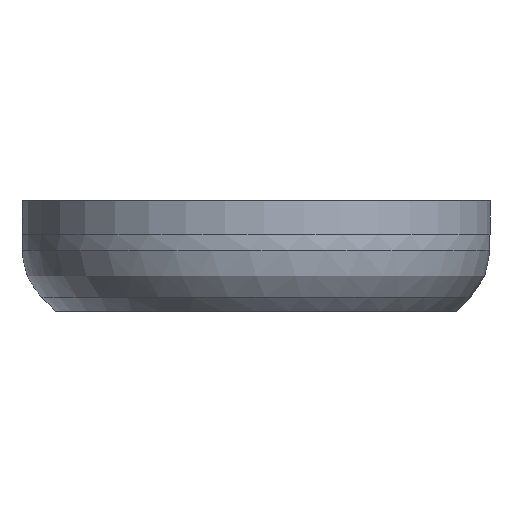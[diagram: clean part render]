
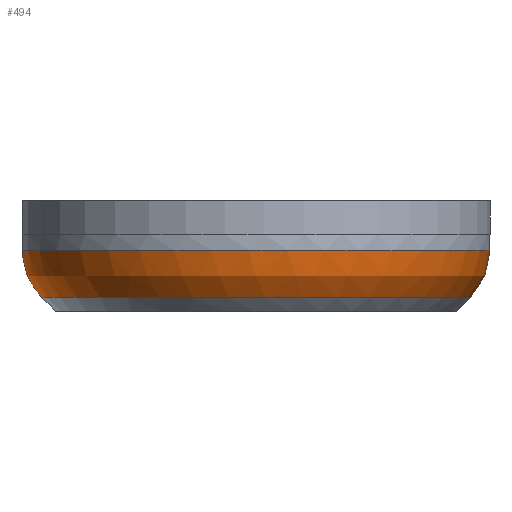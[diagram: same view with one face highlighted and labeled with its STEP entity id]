
A CAD part, front view. The second image highlights one B-rep face of the part: STEP entity #494.
In plain terms, the highlighted free-form (B-spline) face has degree [2, 8] with [3, 9] control points.
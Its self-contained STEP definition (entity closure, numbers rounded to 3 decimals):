
#185 = VERTEX_POINT('',#186);
#186 = CARTESIAN_POINT('',(-6.967,0.677,
    -1.472));
#192 = EDGE_CURVE('',#185,#193,#195,.T.);
#193 = VERTEX_POINT('',#194);
#194 = CARTESIAN_POINT('',(6.967,0.677,-1.472
    ));
#195 = ( BOUNDED_CURVE() B_SPLINE_CURVE(8,(#196,#197,#198,#199,#200,#201
,#202,#203,#204),.UNSPECIFIED.,.F.,.F.) B_SPLINE_CURVE_WITH_KNOTS((9,9),
(59.719,83.066),.PIECEWISE_BEZIER_KNOTS.) CURVE() 
GEOMETRIC_REPRESENTATION_ITEM() RATIONAL_B_SPLINE_CURVE((1.,1.,1.,1.,1.,
1.,1.,1.,1.)) REPRESENTATION_ITEM('') );
#196 = CARTESIAN_POINT('',(-6.967,0.677,
    -1.472));
#197 = CARTESIAN_POINT('',(-7.249,-2.227,
    -1.472));
#198 = CARTESIAN_POINT('',(-6.148,-5.268,
    -1.472));
#199 = CARTESIAN_POINT('',(-3.588,-7.67,
    -1.472));
#200 = CARTESIAN_POINT('',(0.,-8.624,-1.472)
  );
#201 = CARTESIAN_POINT('',(3.588,-7.67,-1.472
    ));
#202 = CARTESIAN_POINT('',(6.148,-5.268,
    -1.472));
#203 = CARTESIAN_POINT('',(7.249,-2.227,
    -1.472));
#204 = CARTESIAN_POINT('',(6.967,0.677,-1.472
    ));
#494 = ADVANCED_FACE('',(#495),#527,.T.);
#495 = FACE_BOUND('',#496,.T.);
#496 = EDGE_LOOP('',(#497,#506,#520,#526));
#497 = ORIENTED_EDGE('',*,*,#498,.T.);
#498 = EDGE_CURVE('',#185,#499,#501,.T.);
#499 = VERTEX_POINT('',#500);
#500 = CARTESIAN_POINT('',(-6.384,0.62,
    -2.886));
#501 = CIRCLE('',#502,2.);
#502 = AXIS2_PLACEMENT_3D('',#503,#504,#505);
#503 = CARTESIAN_POINT('',(-4.977,0.483,
    -1.472));
#504 = DIRECTION('',(-0.097,-0.995,-0.));
#505 = DIRECTION('',(-0.995,0.097,0.));
#506 = ORIENTED_EDGE('',*,*,#507,.T.);
#507 = EDGE_CURVE('',#499,#508,#510,.T.);
#508 = VERTEX_POINT('',#509);
#509 = CARTESIAN_POINT('',(6.384,0.62,-2.886
    ));
#510 = ( BOUNDED_CURVE() B_SPLINE_CURVE(8,(#511,#512,#513,#514,#515,#516
,#517,#518,#519),.UNSPECIFIED.,.F.,.F.) B_SPLINE_CURVE_WITH_KNOTS((9,9),
(59.719,83.066),.PIECEWISE_BEZIER_KNOTS.) CURVE() 
GEOMETRIC_REPRESENTATION_ITEM() RATIONAL_B_SPLINE_CURVE((1.,1.,1.,1.,1.,
1.,1.,1.,1.)) REPRESENTATION_ITEM('') );
#511 = CARTESIAN_POINT('',(-6.384,0.62,
    -2.886));
#512 = CARTESIAN_POINT('',(-6.643,-2.04,
    -2.886));
#513 = CARTESIAN_POINT('',(-5.633,-4.828,
    -2.886));
#514 = CARTESIAN_POINT('',(-3.288,-7.028,
    -2.886));
#515 = CARTESIAN_POINT('',(0.,-7.902,-2.886));
#516 = CARTESIAN_POINT('',(3.288,-7.028,-2.886
    ));
#517 = CARTESIAN_POINT('',(5.633,-4.828,-2.886
    ));
#518 = CARTESIAN_POINT('',(6.643,-2.04,
    -2.886));
#519 = CARTESIAN_POINT('',(6.384,0.62,-2.886
    ));
#520 = ORIENTED_EDGE('',*,*,#521,.F.);
#521 = EDGE_CURVE('',#193,#508,#522,.T.);
#522 = ( BOUNDED_CURVE() B_SPLINE_CURVE(2,(#523,#524,#525),
.UNSPECIFIED.,.F.,.F.) B_SPLINE_CURVE_WITH_KNOTS((3,3),(0.,
23.347),.PIECEWISE_BEZIER_KNOTS.) CURVE() 
GEOMETRIC_REPRESENTATION_ITEM() RATIONAL_B_SPLINE_CURVE((1.,
0.924,1.)) REPRESENTATION_ITEM('') );
#523 = CARTESIAN_POINT('',(6.967,0.677,-1.472
    ));
#524 = CARTESIAN_POINT('',(6.967,0.677,-2.3));
#525 = CARTESIAN_POINT('',(6.384,0.62,-2.886
    ));
#526 = ORIENTED_EDGE('',*,*,#192,.F.);
#527 = ( BOUNDED_SURFACE() B_SPLINE_SURFACE(2,8,(
    (#528,#529,#530,#531,#532,#533,#534,#535,#536)
    ,(#537,#538,#539,#540,#541,#542,#543,#544,#545)
    ,(#546,#547,#548,#549,#550,#551,#552,#553,#554
)),.UNSPECIFIED.,.F.,.F.,.F.) B_SPLINE_SURFACE_WITH_KNOTS((3,3),(9,9),(
    0.,23.347),(59.719,83.066),
.PIECEWISE_BEZIER_KNOTS.) GEOMETRIC_REPRESENTATION_ITEM() 
RATIONAL_B_SPLINE_SURFACE((
    (1.,1.,1.,1.,1.,1.,1.,1.,1.)
    ,(0.924,0.924,0.924,0.924
      ,0.924,0.924,0.924,0.924
      ,0.924)
,(1.,1.,1.,1.,1.,1.,1.,1.,1.))) REPRESENTATION_ITEM('') SURFACE() );
#528 = CARTESIAN_POINT('',(-6.967,0.677,
    -1.472));
#529 = CARTESIAN_POINT('',(-7.249,-2.227,
    -1.472));
#530 = CARTESIAN_POINT('',(-6.148,-5.268,
    -1.472));
#531 = CARTESIAN_POINT('',(-3.588,-7.67,
    -1.472));
#532 = CARTESIAN_POINT('',(0.,-8.624,-1.472)
  );
#533 = CARTESIAN_POINT('',(3.588,-7.67,-1.472
    ));
#534 = CARTESIAN_POINT('',(6.148,-5.268,
    -1.472));
#535 = CARTESIAN_POINT('',(7.249,-2.227,
    -1.472));
#536 = CARTESIAN_POINT('',(6.967,0.677,-1.472
    ));
#537 = CARTESIAN_POINT('',(-6.967,0.677,-2.3));
#538 = CARTESIAN_POINT('',(-7.249,-2.227,-2.3));
#539 = CARTESIAN_POINT('',(-6.148,-5.268,-2.3));
#540 = CARTESIAN_POINT('',(-3.588,-7.67,-2.3));
#541 = CARTESIAN_POINT('',(0.,-8.624,-2.3));
#542 = CARTESIAN_POINT('',(3.588,-7.67,-2.3));
#543 = CARTESIAN_POINT('',(6.148,-5.268,-2.3));
#544 = CARTESIAN_POINT('',(7.249,-2.227,-2.3));
#545 = CARTESIAN_POINT('',(6.967,0.677,-2.3));
#546 = CARTESIAN_POINT('',(-6.384,0.62,
    -2.886));
#547 = CARTESIAN_POINT('',(-6.643,-2.04,
    -2.886));
#548 = CARTESIAN_POINT('',(-5.633,-4.828,
    -2.886));
#549 = CARTESIAN_POINT('',(-3.288,-7.028,
    -2.886));
#550 = CARTESIAN_POINT('',(0.,-7.902,-2.886));
#551 = CARTESIAN_POINT('',(3.288,-7.028,-2.886
    ));
#552 = CARTESIAN_POINT('',(5.633,-4.828,-2.886
    ));
#553 = CARTESIAN_POINT('',(6.643,-2.04,
    -2.886));
#554 = CARTESIAN_POINT('',(6.384,0.62,-2.886
    ));
